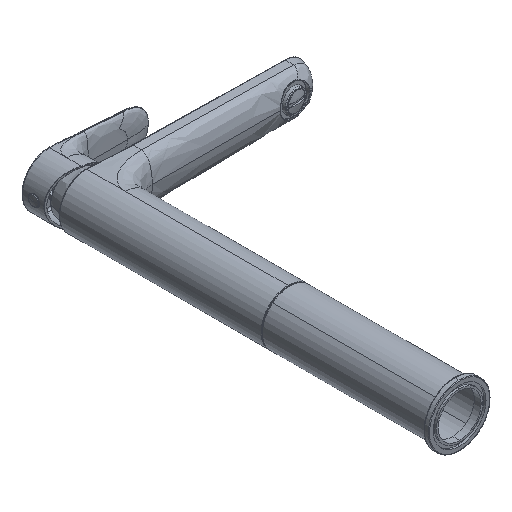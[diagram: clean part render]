
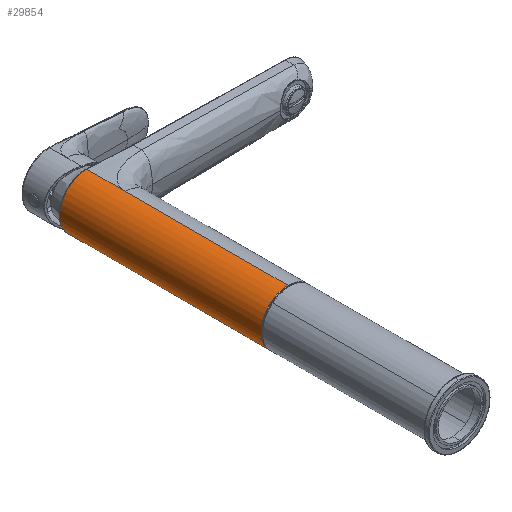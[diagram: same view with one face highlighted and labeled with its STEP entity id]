
A CAD part, isometric view. The second image highlights one B-rep face of the part: STEP entity #29854.
In plain terms, the highlighted cylindrical face has radius 22 mm (diameter 44 mm), a partial arc.
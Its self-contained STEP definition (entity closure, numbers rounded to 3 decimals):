
#600 = AXIS2_PLACEMENT_3D ( 'NONE', #22338, #27534, #5703 ) ;
#733 = VERTEX_POINT ( 'NONE', #16556 ) ;
#760 = CIRCLE ( 'NONE', #3598, 22. ) ;
#2167 = CARTESIAN_POINT ( 'NONE',  ( 0., 0.5, 22. ) ) ;
#2930 = DIRECTION ( 'NONE',  ( 0., -1., 0. ) ) ;
#3556 = CYLINDRICAL_SURFACE ( 'NONE', #600, 22. ) ;
#3598 = AXIS2_PLACEMENT_3D ( 'NONE', #19543, #2930, #13837 ) ;
#4839 = LINE ( 'NONE', #27010, #23126 ) ;
#4895 = CARTESIAN_POINT ( 'NONE',  ( 0., 0.5, 0. ) ) ;
#5635 = VERTEX_POINT ( 'NONE', #7250 ) ;
#5703 = DIRECTION ( 'NONE',  ( 0., 0., -1. ) ) ;
#5743 = EDGE_CURVE ( 'NONE', #733, #7371, #10998, .T. ) ;
#7233 = VERTEX_POINT ( 'NONE', #2167 ) ;
#7250 = CARTESIAN_POINT ( 'NONE',  ( 0., 164.5, 22. ) ) ;
#7371 = VERTEX_POINT ( 'NONE', #9281 ) ;
#7392 = DIRECTION ( 'NONE',  ( -1., 0., 0. ) ) ;
#7729 = CARTESIAN_POINT ( 'NONE',  ( 0., 0.5, -22. ) ) ;
#7770 = CARTESIAN_POINT ( 'NONE',  ( 0., 133., -22. ) ) ;
#9281 = CARTESIAN_POINT ( 'NONE',  ( 0., 133., -22. ) ) ;
#9338 = VECTOR ( 'NONE', #18303, 1000. ) ;
#9720 = ORIENTED_EDGE ( 'NONE', *, *, #31032, .F. ) ;
#9728 = CARTESIAN_POINT ( 'NONE',  ( 0., 164.5, -22. ) ) ;
#10265 = CARTESIAN_POINT ( 'NONE',  ( 0., 154., -22. ) ) ;
#10325 = EDGE_LOOP ( 'NONE', ( #21742, #34431, #14064, #20458, #27523, #9720, #12799 ) ) ;
#10998 = B_SPLINE_CURVE_WITH_KNOTS ( 'NONE', 3,
 ( #24045, #10265, #18321, #7770 ),
 .UNSPECIFIED., .F., .F.,
 ( 4, 4 ),
 ( 0., 1. ),
 .UNSPECIFIED. ) ;
#11496 = VERTEX_POINT ( 'NONE', #31003 ) ;
#11919 = EDGE_CURVE ( 'NONE', #11496, #7233, #4839, .T. ) ;
#12123 = AXIS2_PLACEMENT_3D ( 'NONE', #4895, #15623, #7392 ) ;
#12589 = LINE ( 'NONE', #9728, #9338 ) ;
#12799 = ORIENTED_EDGE ( 'NONE', *, *, #29420, .F. ) ;
#13733 = CIRCLE ( 'NONE', #28578, 22. ) ;
#13837 = DIRECTION ( 'NONE',  ( 0.03, 0., -1. ) ) ;
#14064 = ORIENTED_EDGE ( 'NONE', *, *, #34128, .T. ) ;
#14119 = FACE_OUTER_BOUND ( 'NONE', #10325, .T. ) ;
#15623 = DIRECTION ( 'NONE',  ( 0., -1., 0. ) ) ;
#16556 = CARTESIAN_POINT ( 'NONE',  ( 0., 164.5, -22. ) ) ;
#17257 = CARTESIAN_POINT ( 'NONE',  ( 0., 154., 22. ) ) ;
#17338 = CARTESIAN_POINT ( 'NONE',  ( -21.995, 0.5, 0.468 ) ) ;
#17945 = CARTESIAN_POINT ( 'NONE',  ( 0., 0.5, 0. ) ) ;
#18293 = VERTEX_POINT ( 'NONE', #7729 ) ;
#18303 = DIRECTION ( 'NONE',  ( 0., -1., 0. ) ) ;
#18321 = CARTESIAN_POINT ( 'NONE',  ( 0., 143.5, -22. ) ) ;
#19543 = CARTESIAN_POINT ( 'NONE',  ( 0., 164.5, 0. ) ) ;
#19941 = CARTESIAN_POINT ( 'NONE',  ( 0., 164.5, 22. ) ) ;
#20305 = CARTESIAN_POINT ( 'NONE',  ( 0., 143.5, 22. ) ) ;
#20441 = DIRECTION ( 'NONE',  ( 0., -1., 0. ) ) ;
#20458 = ORIENTED_EDGE ( 'NONE', *, *, #5743, .T. ) ;
#21742 = ORIENTED_EDGE ( 'NONE', *, *, #11919, .F. ) ;
#22338 = CARTESIAN_POINT ( 'NONE',  ( 0., 164.5, 0. ) ) ;
#23126 = VECTOR ( 'NONE', #24335, 1000. ) ;
#24045 = CARTESIAN_POINT ( 'NONE',  ( 0., 164.5, -22. ) ) ;
#24335 = DIRECTION ( 'NONE',  ( 0., -1., 0. ) ) ;
#25536 = VERTEX_POINT ( 'NONE', #17338 ) ;
#27010 = CARTESIAN_POINT ( 'NONE',  ( 0., 164.5, 22. ) ) ;
#27523 = ORIENTED_EDGE ( 'NONE', *, *, #31021, .T. ) ;
#27534 = DIRECTION ( 'NONE',  ( 0., -1., 0. ) ) ;
#28181 = CARTESIAN_POINT ( 'NONE',  ( 0., 133., 22. ) ) ;
#28578 = AXIS2_PLACEMENT_3D ( 'NONE', #17945, #20441, #34582 ) ;
#29420 = EDGE_CURVE ( 'NONE', #7233, #25536, #13733, .T. ) ;
#29854 = ADVANCED_FACE ( 'NONE', ( #14119 ), #3556, .T. ) ;
#31003 = CARTESIAN_POINT ( 'NONE',  ( 0., 133., 22. ) ) ;
#31021 = EDGE_CURVE ( 'NONE', #7371, #18293, #12589, .T. ) ;
#31032 = EDGE_CURVE ( 'NONE', #25536, #18293, #32782, .T. ) ;
#32782 = CIRCLE ( 'NONE', #12123, 22. ) ;
#34128 = EDGE_CURVE ( 'NONE', #5635, #733, #760, .T. ) ;
#34431 = ORIENTED_EDGE ( 'NONE', *, *, #34999, .F. ) ;
#34582 = DIRECTION ( 'NONE',  ( -1., 0., 0. ) ) ;
#34597 = B_SPLINE_CURVE_WITH_KNOTS ( 'NONE', 3,
 ( #19941, #17257, #20305, #28181 ),
 .UNSPECIFIED., .F., .F.,
 ( 4, 4 ),
 ( 0., 1. ),
 .UNSPECIFIED. ) ;
#34999 = EDGE_CURVE ( 'NONE', #5635, #11496, #34597, .T. ) ;
